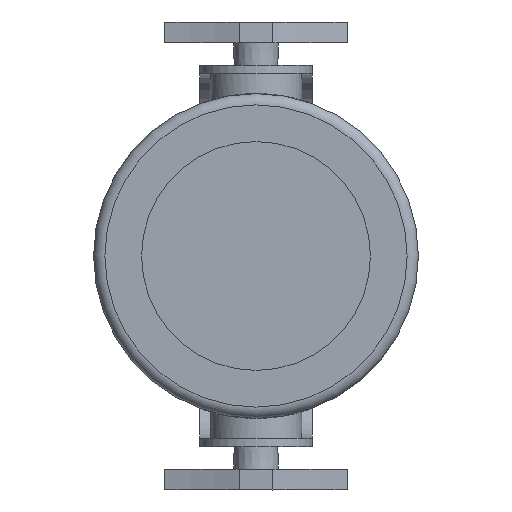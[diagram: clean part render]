
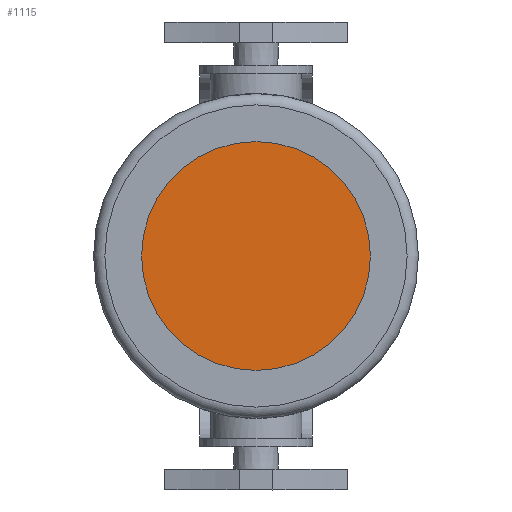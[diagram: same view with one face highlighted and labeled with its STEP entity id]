
A CAD part, left-side view. The second image highlights one B-rep face of the part: STEP entity #1115.
In plain terms, the highlighted planar face has unit normal (-1, 0, 0).
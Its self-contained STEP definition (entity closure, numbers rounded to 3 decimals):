
#118=PLANE('',#1264);
#185=FACE_OUTER_BOUND('',#266,.T.);
#266=EDGE_LOOP('',(#1037));
#456=CIRCLE('',#1263,40.5);
#566=VERTEX_POINT('',#3817);
#723=EDGE_CURVE('',#566,#566,#456,.T.);
#1037=ORIENTED_EDGE('',*,*,#723,.F.);
#1115=ADVANCED_FACE('',(#185),#118,.T.);
#1263=AXIS2_PLACEMENT_3D('',#3819,#1576,#1577);
#1264=AXIS2_PLACEMENT_3D('',#3820,#1578,#1579);
#1576=DIRECTION('center_axis',(1.,0.,0.));
#1577=DIRECTION('ref_axis',(0.,-1.,0.));
#1578=DIRECTION('center_axis',(-1.,0.,0.));
#1579=DIRECTION('ref_axis',(0.,-1.,0.));
#3817=CARTESIAN_POINT('',(-6.7,40.5,0.));
#3819=CARTESIAN_POINT('Origin',(-6.7,0.,0.));
#3820=CARTESIAN_POINT('Origin',(-6.7,0.,0.));
